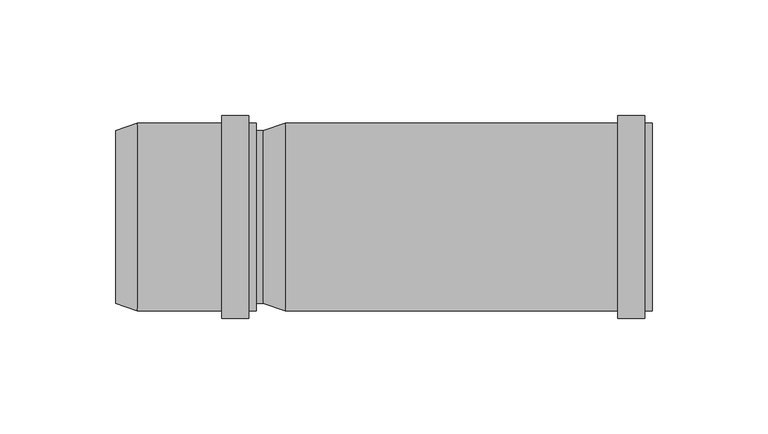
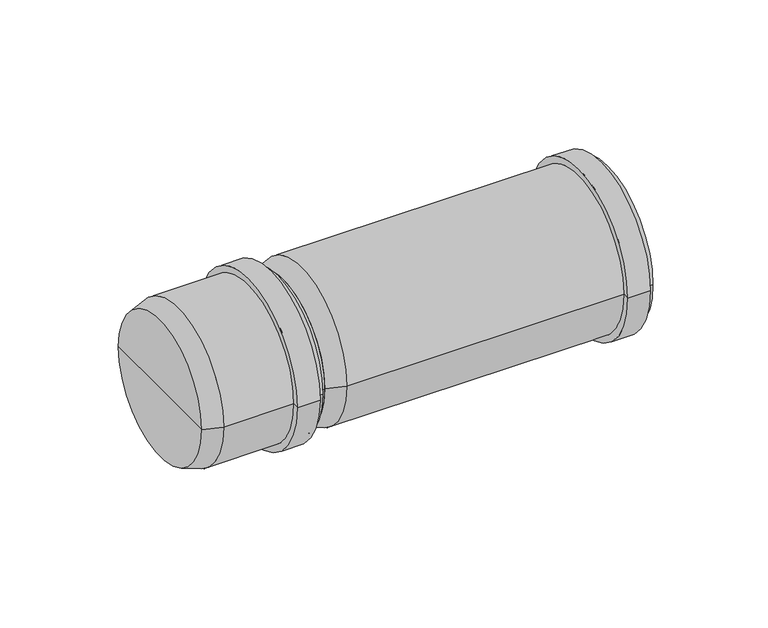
"""IFC4 building model written with IfcOpenShell, lengths in millimetres: pipe fitting geometry, pf_HTL : pf_HTL."""

from ifc_helpers import new_model, si_unit, point, frame, origin, origin_2d, place, context, project, spatial, polyline, circle_curve, trimmed, segment, composite_curve, outline, extrude, source, transform, mapped, element, save
from ifc_brep_helpers import plane_surface, cylinder_surface, revolved_surface, advanced_brep


def pipe_fitting_aadd152d(model_context):
    return source(origin(), model_context, "Body", "SolidModel", [
        advanced_brep(
        [(0.0, -37.5, 0.0), (0.0, 37.5, 0.0), (9.5, 40.6, 0.0), (9.5, -40.6, 0.0), (0.0, 0.0, 0.0), (168.4, -40.6, 0.0), (168.4, 40.6, 0.0), (168.4, 37.5, 0.0), (168.4, -37.5, 0.0), (165.0, -40.6, 0.0), (165.0, 40.6, 0.0), (165.0, -44.0, 0.0), (165.0, 44.0, 0.0), (153.4, -44.0, 0.0), (153.4, 44.0, 0.0), (153.4, -40.6, 0.0), (153.4, 40.6, 0.0), (9.5, -37.5, 0.0), (9.5, 37.5, 0.0), (9.5, 0.0, 0.0)],
        [
            (0, 1, circle_curve(frame((0.0, 0.0, 0.0), z_axis=(1.0, 0.0, 0.0), x_axis=(0.0, 1.0, 0.0)), 37.5)),
            (1, 2),
            (2, 3, circle_curve(frame((9.5, 0.0, 0.0), z_axis=(-1.0, 0.0, 0.0), x_axis=(0.0, 1.0, 0.0)), 40.6)),
            (3, 0),
            (1, 0, circle_curve(frame((0.0, 0.0, 0.0), z_axis=(1.0, 0.0, 0.0), x_axis=(0.0, 1.0, 0.0)), 37.5)),
            (3, 2, circle_curve(frame((9.5, 0.0, 0.0), z_axis=(-1.0, 0.0, 0.0), x_axis=(0.0, 1.0, 0.0)), 40.6)),
            (4, 1),
            (0, 4),
            (5, 6, circle_curve(frame((168.4, 0.0, 0.0), z_axis=(1.0, 0.0, 0.0), x_axis=(0.0, 1.0, 0.0)), 40.6)),
            (6, 7),
            (7, 8, circle_curve(frame((168.4, 0.0, 0.0), z_axis=(-1.0, 0.0, 0.0), x_axis=(0.0, 1.0, 0.0)), 37.5)),
            (8, 5),
            (6, 5, circle_curve(frame((168.4, 0.0, 0.0), z_axis=(1.0, 0.0, 0.0), x_axis=(0.0, 1.0, 0.0)), 40.6)),
            (8, 7, circle_curve(frame((168.4, 0.0, 0.0), z_axis=(-1.0, 0.0, 0.0), x_axis=(0.0, 1.0, 0.0)), 37.5)),
            (9, 10, circle_curve(frame((165.0, 0.0, 0.0), z_axis=(1.0, 0.0, 0.0), x_axis=(0.0, 1.0, 0.0)), 40.6)),
            (10, 6),
            (5, 9),
            (10, 9, circle_curve(frame((165.0, 0.0, 0.0), z_axis=(1.0, 0.0, 0.0), x_axis=(0.0, 1.0, 0.0)), 40.6)),
            (11, 12, circle_curve(frame((165.0, 0.0, 0.0), z_axis=(1.0, 0.0, 0.0), x_axis=(0.0, 1.0, 0.0)), 44.0)),
            (12, 10),
            (9, 11),
            (12, 11, circle_curve(frame((165.0, 0.0, 0.0), z_axis=(1.0, 0.0, 0.0), x_axis=(0.0, 1.0, 0.0)), 44.0)),
            (13, 14, circle_curve(frame((153.4, 0.0, 0.0), z_axis=(1.0, 0.0, 0.0), x_axis=(0.0, 1.0, 0.0)), 44.0)),
            (14, 12),
            (11, 13),
            (14, 13, circle_curve(frame((153.4, 0.0, 0.0), z_axis=(1.0, 0.0, 0.0), x_axis=(0.0, 1.0, 0.0)), 44.0)),
            (15, 16, circle_curve(frame((153.4, 0.0, 0.0), z_axis=(1.0, 0.0, 0.0), x_axis=(0.0, 1.0, 0.0)), 40.6)),
            (16, 14),
            (13, 15),
            (16, 15, circle_curve(frame((153.4, 0.0, 0.0), z_axis=(1.0, 0.0, 0.0), x_axis=(0.0, 1.0, 0.0)), 40.6)),
            (2, 16),
            (15, 3),
            (17, 18, circle_curve(frame((9.5, 0.0, 0.0), z_axis=(1.0, 0.0, 0.0), x_axis=(0.0, 1.0, 0.0)), 37.5)),
            (18, 19),
            (19, 17),
            (18, 17, circle_curve(frame((9.5, 0.0, 0.0), z_axis=(1.0, 0.0, 0.0), x_axis=(0.0, 1.0, 0.0)), 37.5)),
            (7, 18),
            (17, 8),
        ],
        [
            revolved_surface(polyline([(9.5, 40.6, 0.0), (0.0, 37.5, 0.0)]), (0.0, 0.0, 0.0), (-1.0, 0.0, 0.0)),
            plane_surface(frame((0.0, 0.0, 0.0), z_axis=(-1.0, 0.0, 0.0), x_axis=(0.0, 1.0, 0.0))),
            plane_surface(frame((168.4, 0.0, 0.0), z_axis=(1.0, 0.0, 0.0), x_axis=(0.0, 1.0, 0.0))),
            cylinder_surface(frame((0.0, 0.0, 0.0), z_axis=(-1.0, 0.0, 0.0), x_axis=(0.0, 1.0, 0.0)), 40.6),
            plane_surface(frame((165.0, 0.0, 0.0), z_axis=(1.0, 0.0, 0.0), x_axis=(0.0, 1.0, 0.0))),
            cylinder_surface(frame((0.0, 0.0, 0.0), z_axis=(-1.0, 0.0, 0.0), x_axis=(0.0, 1.0, 0.0)), 44.0),
            plane_surface(frame((153.4, 0.0, 0.0), z_axis=(-1.0, 0.0, 0.0), x_axis=(0.0, 1.0, 0.0))),
            plane_surface(frame((9.5, 0.0, 0.0), z_axis=(1.0, 0.0, 0.0), x_axis=(0.0, 1.0, 0.0))),
            revolved_surface(polyline([(9.5, 37.5, 0.0), (168.4, 37.5, 0.0)]), (0.0, 0.0, 0.0), (-1.0, 0.0, 0.0)),
        ],
        [
            (0, [[1, 2, 3, 4]]),
            (0, [[5, -4, 6, -2]]),
            (1, [[7, -1, 8]]),
            (1, [[-8, -5, -7]]),
            (2, [[9, 10, 11, 12]]),
            (2, [[13, -12, 14, -10]]),
            (3, [[15, 16, -9, 17]]),
            (3, [[18, -17, -13, -16]]),
            (4, [[19, 20, -15, 21]]),
            (4, [[22, -21, -18, -20]]),
            (5, [[23, 24, -19, 25]]),
            (5, [[26, -25, -22, -24]]),
            (6, [[27, 28, -23, 29]]),
            (6, [[30, -29, -26, -28]]),
            (3, [[-3, 31, -27, 32]]),
            (3, [[-6, -32, -30, -31]]),
            (7, [[33, 34, 35]]),
            (7, [[36, -35, -34]]),
            (8, [[-11, 37, -33, 38]]),
            (8, [[-14, -38, -36, -37]]),
        ],
    ),
        advanced_brep(
        [(-64.0, -37.5, 0.0), (-64.0, 37.5, 0.0), (-54.5, 40.6, 0.0), (-54.5, -40.6, 0.0), (-64.0, 0.0, 0.0), (-3.0, -40.6, 0.0), (-3.0, 40.6, 0.0), (-3.0, 37.5, 0.0), (-3.0, -37.5, 0.0), (-6.4, -40.6, 0.0), (-6.4, 40.6, 0.0), (-6.4, -44.0, 0.0), (-6.4, 44.0, 0.0), (-18.0, -44.0, 0.0), (-18.0, 44.0, 0.0), (-18.0, -40.6, 0.0), (-18.0, 40.6, 0.0), (-54.5, -37.5, 0.0), (-54.5, 37.5, 0.0), (-54.5, 0.0, 0.0)],
        [
            (0, 1, circle_curve(frame((-64.0, 0.0, 0.0), z_axis=(1.0, 0.0, 0.0), x_axis=(0.0, 1.0, 0.0)), 37.5)),
            (1, 2),
            (2, 3, circle_curve(frame((-54.5, 0.0, 0.0), z_axis=(-1.0, 0.0, 0.0), x_axis=(0.0, 1.0, 0.0)), 40.6)),
            (3, 0),
            (1, 0, circle_curve(frame((-64.0, 0.0, 0.0), z_axis=(1.0, 0.0, 0.0), x_axis=(0.0, 1.0, 0.0)), 37.5)),
            (3, 2, circle_curve(frame((-54.5, 0.0, 0.0), z_axis=(-1.0, 0.0, 0.0), x_axis=(0.0, 1.0, 0.0)), 40.6)),
            (4, 1),
            (0, 4),
            (5, 6, circle_curve(frame((-3.0, 0.0, 0.0), z_axis=(1.0, 0.0, 0.0), x_axis=(0.0, 1.0, 0.0)), 40.6)),
            (6, 7),
            (7, 8, circle_curve(frame((-3.0, 0.0, 0.0), z_axis=(-1.0, 0.0, 0.0), x_axis=(0.0, 1.0, 0.0)), 37.5)),
            (8, 5),
            (6, 5, circle_curve(frame((-3.0, 0.0, 0.0), z_axis=(1.0, 0.0, 0.0), x_axis=(0.0, 1.0, 0.0)), 40.6)),
            (8, 7, circle_curve(frame((-3.0, 0.0, 0.0), z_axis=(-1.0, 0.0, 0.0), x_axis=(0.0, 1.0, 0.0)), 37.5)),
            (9, 10, circle_curve(frame((-6.4, 0.0, 0.0), z_axis=(1.0, 0.0, 0.0), x_axis=(0.0, 1.0, 0.0)), 40.6)),
            (10, 6),
            (5, 9),
            (10, 9, circle_curve(frame((-6.4, 0.0, 0.0), z_axis=(1.0, 0.0, 0.0), x_axis=(0.0, 1.0, 0.0)), 40.6)),
            (11, 12, circle_curve(frame((-6.4, 0.0, 0.0), z_axis=(1.0, 0.0, 0.0), x_axis=(0.0, 1.0, 0.0)), 44.0)),
            (12, 10),
            (9, 11),
            (12, 11, circle_curve(frame((-6.4, 0.0, 0.0), z_axis=(1.0, 0.0, 0.0), x_axis=(0.0, 1.0, 0.0)), 44.0)),
            (13, 14, circle_curve(frame((-18.0, 0.0, 0.0), z_axis=(1.0, 0.0, 0.0), x_axis=(0.0, 1.0, 0.0)), 44.0)),
            (14, 12),
            (11, 13),
            (14, 13, circle_curve(frame((-18.0, 0.0, 0.0), z_axis=(1.0, 0.0, 0.0), x_axis=(0.0, 1.0, 0.0)), 44.0)),
            (15, 16, circle_curve(frame((-18.0, 0.0, 0.0), z_axis=(1.0, 0.0, 0.0), x_axis=(0.0, 1.0, 0.0)), 40.6)),
            (16, 14),
            (13, 15),
            (16, 15, circle_curve(frame((-18.0, 0.0, 0.0), z_axis=(1.0, 0.0, 0.0), x_axis=(0.0, 1.0, 0.0)), 40.6)),
            (2, 16),
            (15, 3),
            (17, 18, circle_curve(frame((-54.5, 0.0, 0.0), z_axis=(1.0, 0.0, 0.0), x_axis=(0.0, 1.0, 0.0)), 37.5)),
            (18, 19),
            (19, 17),
            (18, 17, circle_curve(frame((-54.5, 0.0, 0.0), z_axis=(1.0, 0.0, 0.0), x_axis=(0.0, 1.0, 0.0)), 37.5)),
            (7, 18),
            (17, 8),
        ],
        [
            revolved_surface(polyline([(-54.5, 40.6, 0.0), (-64.0, 37.5, 0.0)]), (-64.0, 0.0, 0.0), (-1.0, 0.0, 0.0)),
            plane_surface(frame((-64.0, 0.0, 0.0), z_axis=(-1.0, 0.0, 0.0), x_axis=(0.0, 1.0, 0.0))),
            plane_surface(frame((-3.0, 0.0, 0.0), z_axis=(1.0, 0.0, 0.0), x_axis=(0.0, 1.0, 0.0))),
            cylinder_surface(frame((-64.0, 0.0, 0.0), z_axis=(-1.0, 0.0, 0.0), x_axis=(0.0, 1.0, 0.0)), 40.6),
            plane_surface(frame((-6.4, 0.0, 0.0), z_axis=(1.0, 0.0, 0.0), x_axis=(0.0, 1.0, 0.0))),
            cylinder_surface(frame((-64.0, 0.0, 0.0), z_axis=(-1.0, 0.0, 0.0), x_axis=(0.0, 1.0, 0.0)), 44.0),
            plane_surface(frame((-18.0, 0.0, 0.0), z_axis=(-1.0, 0.0, 0.0), x_axis=(0.0, 1.0, 0.0))),
            plane_surface(frame((-54.5, 0.0, 0.0), z_axis=(1.0, 0.0, 0.0), x_axis=(0.0, 1.0, 0.0))),
            revolved_surface(polyline([(-54.5, 37.5, 0.0), (-3.0, 37.5, 0.0)]), (-64.0, 0.0, 0.0), (-1.0, 0.0, 0.0)),
        ],
        [
            (0, [[1, 2, 3, 4]]),
            (0, [[5, -4, 6, -2]]),
            (1, [[7, -1, 8]]),
            (1, [[-8, -5, -7]]),
            (2, [[9, 10, 11, 12]]),
            (2, [[13, -12, 14, -10]]),
            (3, [[15, 16, -9, 17]]),
            (3, [[18, -17, -13, -16]]),
            (4, [[19, 20, -15, 21]]),
            (4, [[22, -21, -18, -20]]),
            (5, [[23, 24, -19, 25]]),
            (5, [[26, -25, -22, -24]]),
            (6, [[27, 28, -23, 29]]),
            (6, [[30, -29, -26, -28]]),
            (3, [[-3, 31, -27, 32]]),
            (3, [[-6, -32, -30, -31]]),
            (7, [[33, 34, 35]]),
            (7, [[36, -35, -34]]),
            (8, [[-11, 37, -33, 38]]),
            (8, [[-14, -38, -36, -37]]),
        ],
    ),
        extrude(outline(composite_curve([segment(trimmed(circle_curve(origin_2d(), 37.5), [point((-37.5, 0.0))], [point((37.5, 0.0))], False, "CARTESIAN"), True, "CONTINUOUS"), segment(trimmed(circle_curve(origin_2d(), 37.5), [point((37.5, 0.0))], [point((-37.5, 0.0))], False, "CARTESIAN"), True, "CONTINUOUS")], self_intersect=False)), frame((-3.0, 0.0, 0.0), z_axis=(1.0, 0.0, 0.0), x_axis=(0.0, 1.0, 0.0)), (0.0, 0.0, 1.0), 3.0),
    ])


if __name__ == "__main__":
    model = new_model("IFC4")
    model_context = context("Model", 3, world=origin())
    ifc_project = project(units=[si_unit("LENGTHUNIT", "METRE", prefix="MILLI")], contexts=[model_context])
    site = spatial("IfcSite", under=ifc_project)
    building = spatial("IfcBuilding", under=site)
    placement = place(None, origin())
    pipe_fitting_shape = pipe_fitting_aadd152d(model_context)
    element("IfcPipeFitting", 1, ObjectType="pf_HTL : pf_HTL", at=placement, inside=building, context=model_context, shape_type="MappedRepresentation", body=[
        mapped(pipe_fitting_shape, transform((0.0, 0.0, 0.0), x_axis=(1.0, 0.0, 0.0), y_axis=(0.0, 1.0, 0.0), z_axis=(0.0, 0.0, 1.0))),
    ])
    save(model, "model.ifc")
